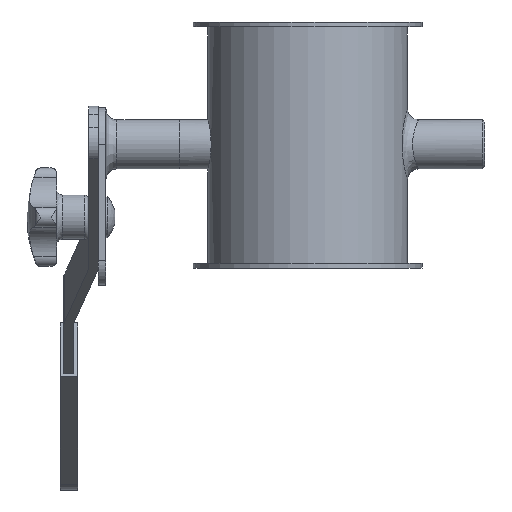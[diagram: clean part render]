
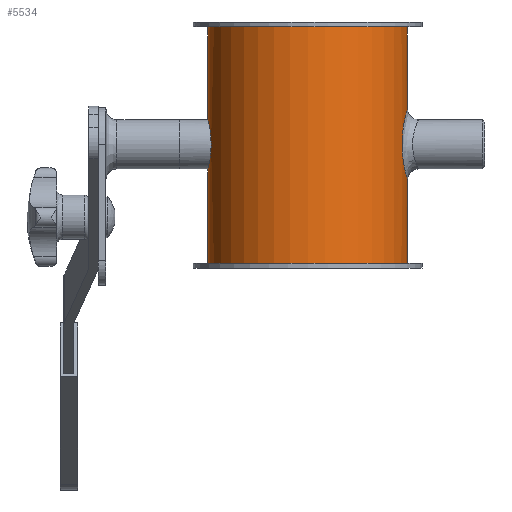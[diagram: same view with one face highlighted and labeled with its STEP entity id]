
A CAD part, front view. The second image highlights one B-rep face of the part: STEP entity #5534.
In plain terms, the highlighted cylindrical face has radius 40.5 mm (diameter 81 mm), a full revolution.
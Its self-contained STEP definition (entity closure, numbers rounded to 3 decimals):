
#5425=CARTESIAN_POINT('',(38.34,13.05,50.293));
#5426=VERTEX_POINT('',#5425);
#5436=CARTESIAN_POINT('',(38.338,13.052,50.293));
#5437=CARTESIAN_POINT('',(38.338,13.052,52.465));
#5438=CARTESIAN_POINT('',(38.664,12.146,56.821));
#5439=CARTESIAN_POINT('',(39.707,8.439,61.984));
#5440=CARTESIAN_POINT('',(40.531,3.049,64.91));
#5441=CARTESIAN_POINT('',(40.535,-3.017,64.916));
#5442=CARTESIAN_POINT('',(39.71,-8.418,62.005));
#5443=CARTESIAN_POINT('',(38.785,-11.722,57.413));
#5444=CARTESIAN_POINT('',(38.325,-13.096,52.521));
#5445=CARTESIAN_POINT('',(38.322,-13.101,48.088));
#5446=CARTESIAN_POINT('',(38.852,-11.536,42.479));
#5447=CARTESIAN_POINT('',(39.848,-7.878,38.105));
#5448=CARTESIAN_POINT('',(40.532,-2.361,35.675));
#5449=CARTESIAN_POINT('',(40.532,3.029,35.672));
#5450=CARTESIAN_POINT('',(39.71,8.422,38.591));
#5451=CARTESIAN_POINT('',(38.666,12.14,43.744));
#5452=CARTESIAN_POINT('',(38.338,13.052,48.121));
#5453=CARTESIAN_POINT('',(38.338,13.052,50.293));
#5454=CARTESIAN_POINT('',(38.338,13.052,50.293));
#5455=CARTESIAN_POINT('',(38.338,13.052,50.293));
#5456=CARTESIAN_POINT('',(38.338,13.052,50.293));
#5457=B_SPLINE_CURVE_WITH_KNOTS('',3,(#5436,#5437,#5438,#5439,#5440,#5441,#5442,#5443,#5444,#5445,#5446,#5447,#5448,#5449,#5450,#5451,#5452,#5453,#5454,#5455,#5456),.UNSPECIFIED.,.T.,.U.,(4,1,1,1,1,1,1,1,1,1,1,1,1,1,1,3,4),(-6.054,-5.622,-5.189,-4.757,-4.324,-3.892,-3.459,-3.171,-2.883,-2.595,-2.018,-1.73,-1.297,-0.865,-0.432,0.0,0.),.UNSPECIFIED.);
#5458=EDGE_CURVE('',#5426,#5426,#5457,.T.);
#5463=CARTESIAN_POINT('',(0.0,0.0,0.0));
#5464=DIRECTION('',(0.0,0.0,1.0));
#5465=DIRECTION('',(-1.0,0.0,0.0));
#5466=AXIS2_PLACEMENT_3D('',#5463,#5464,#5465);
#5467=CYLINDRICAL_SURFACE('',#5466,40.5);
#5468=CARTESIAN_POINT('',(40.5,0.,98.0));
#5469=VERTEX_POINT('',#5468);
#5470=CARTESIAN_POINT('',(0.0,0.0,98.0));
#5471=DIRECTION('',(0.0,0.0,-1.0));
#5472=DIRECTION('',(-1.0,0.0,0.0));
#5473=AXIS2_PLACEMENT_3D('',#5470,#5471,#5472);
#5474=CIRCLE('',#5473,40.5);
#5475=EDGE_CURVE('',#5469,#5469,#5474,.T.);
#5476=ORIENTED_EDGE('',*,*,#5475,.T.);
#5477=EDGE_LOOP('',(#5476));
#5478=FACE_OUTER_BOUND('',#5477,.T.);
#5479=CARTESIAN_POINT('',(-40.5,0.,2.0));
#5480=VERTEX_POINT('',#5479);
#5481=CARTESIAN_POINT('',(0.0,0.0,2.0));
#5482=DIRECTION('',(0.0,0.0,1.0));
#5483=DIRECTION('',(-1.0,0.0,0.0));
#5484=AXIS2_PLACEMENT_3D('',#5481,#5482,#5483);
#5485=CIRCLE('',#5484,40.5);
#5486=EDGE_CURVE('',#5480,#5480,#5485,.T.);
#5487=ORIENTED_EDGE('',*,*,#5486,.T.);
#5488=EDGE_LOOP('',(#5487));
#5489=FACE_BOUND('',#5488,.T.);
#5490=CARTESIAN_POINT('',(-39.246,10.0,50.293));
#5491=VERTEX_POINT('',#5490);
#5492=CARTESIAN_POINT('',(-39.246,10.0,50.293));
#5493=CARTESIAN_POINT('',(-39.246,10.0,51.554));
#5494=CARTESIAN_POINT('',(-39.313,9.747,52.896));
#5495=CARTESIAN_POINT('',(-39.553,8.725,55.358));
#5496=CARTESIAN_POINT('',(-39.721,7.956,56.479));
#5497=CARTESIAN_POINT('',(-40.035,6.186,58.249));
#5498=CARTESIAN_POINT('',(-40.201,5.065,59.018));
#5499=CARTESIAN_POINT('',(-40.435,2.603,60.04));
#5500=CARTESIAN_POINT('',(-40.5,1.261,60.293));
#5501=CARTESIAN_POINT('',(-40.5,-1.261,60.293));
#5502=CARTESIAN_POINT('',(-40.435,-2.603,60.04));
#5503=CARTESIAN_POINT('',(-40.201,-5.065,59.018));
#5504=CARTESIAN_POINT('',(-40.035,-6.186,58.249));
#5505=CARTESIAN_POINT('',(-39.721,-7.956,56.479));
#5506=CARTESIAN_POINT('',(-39.553,-8.725,55.358));
#5507=CARTESIAN_POINT('',(-39.313,-9.747,52.896));
#5508=CARTESIAN_POINT('',(-39.246,-10.0,51.554));
#5509=CARTESIAN_POINT('',(-39.246,-10.0,49.032));
#5510=CARTESIAN_POINT('',(-39.313,-9.747,47.69));
#5511=CARTESIAN_POINT('',(-39.553,-8.725,45.228));
#5512=CARTESIAN_POINT('',(-39.721,-7.956,44.107));
#5513=CARTESIAN_POINT('',(-40.035,-6.186,42.337));
#5514=CARTESIAN_POINT('',(-40.201,-5.065,41.568));
#5515=CARTESIAN_POINT('',(-40.435,-2.603,40.546));
#5516=CARTESIAN_POINT('',(-40.5,-1.261,40.293));
#5517=CARTESIAN_POINT('',(-40.5,1.261,40.293));
#5518=CARTESIAN_POINT('',(-40.435,2.603,40.546));
#5519=CARTESIAN_POINT('',(-40.201,5.065,41.568));
#5520=CARTESIAN_POINT('',(-40.035,6.186,42.337));
#5521=CARTESIAN_POINT('',(-39.721,7.956,44.107));
#5522=CARTESIAN_POINT('',(-39.553,8.725,45.228));
#5523=CARTESIAN_POINT('',(-39.313,9.747,47.69));
#5524=CARTESIAN_POINT('',(-39.246,10.0,49.032));
#5525=CARTESIAN_POINT('',(-39.246,10.0,50.293));
#5526=B_SPLINE_CURVE_WITH_KNOTS('',3,(#5492,#5493,#5494,#5495,#5496,#5497,#5498,#5499,#5500,#5501,#5502,#5503,#5504,#5505,#5506,#5507,#5508,#5509,#5510,#5511,#5512,#5513,#5514,#5515,#5516,#5517,#5518,#5519,#5520,#5521,#5522,#5523,#5524,#5525),.UNSPECIFIED.,.T.,.U.,(4,2,2,2,2,2,2,2,2,2,2,2,2,2,2,2,4),(0.0,0.378,0.757,1.135,1.514,1.892,2.27,2.649,3.027,3.405,3.784,4.162,4.541,4.919,5.297,5.676,6.054),.UNSPECIFIED.);
#5527=EDGE_CURVE('',#5491,#5491,#5526,.T.);
#5528=ORIENTED_EDGE('',*,*,#5527,.T.);
#5529=EDGE_LOOP('',(#5528));
#5530=FACE_BOUND('',#5529,.T.);
#5531=ORIENTED_EDGE('',*,*,#5458,.F.);
#5532=EDGE_LOOP('',(#5531));
#5533=FACE_BOUND('',#5532,.T.);
#5534=ADVANCED_FACE('',(#5478,#5489,#5530,#5533),#5467,.T.);
